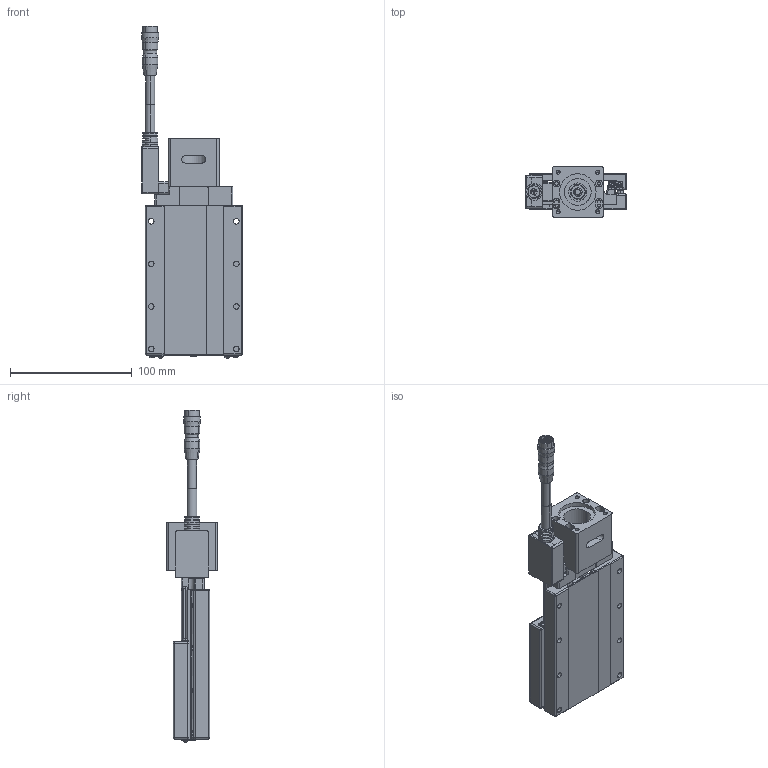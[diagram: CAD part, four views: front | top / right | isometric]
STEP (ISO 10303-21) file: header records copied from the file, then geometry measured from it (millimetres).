
FILE_DESCRIPTION (( 'STEP AP203' ), '1' );
FILE_NAME ('CXS8050(伺服M無馬達).STEP', '2023-12-25T09:30:01', ( '' ), ( '' ), 'SwSTEP 2.0', 'SolidWorks 2019', '' );
FILE_SCHEMA (( 'CONFIG_CONTROL_DESIGN' ));
Length unit declared in the file: millimetre
Products named in the file (6): CXS8050(伺服M無馬達); CXS-H-01; Group1^CXS8050(伺服M無馬達)_defeature_GMT; Group2^CXS8050(伺服M無馬達)_defeature_GMT; CXS-M_GMT; HR10A-10J-12P
Assembly tree (5 placements, depth 2):
  CXS8050(伺服M無馬達)
    Group1^CXS8050(伺服M無馬達)_defeature_GMT
    Group2^CXS8050(伺服M無馬達)_defeature_GMT
    HR10A-10J-12P
    CXS-H-01
    CXS-M_GMT
Bounding box: 83 x 42 x 273.12 mm (x, y, z)
Volume: 105329.2 mm3; surface area: 96452 mm2
Topology: 11 solids, 14 shells, 1980 faces, 5011 edges, 3127 vertices
Faces by surface type: plane 997, cylinder 538, cone 223, sphere 140, torus 43, bspline 39
Entity records: 62592 total; most frequent: CARTESIAN_POINT 13586, DIRECTION 10506, ORIENTED_EDGE 9902, EDGE_CURVE 4951, AXIS2_PLACEMENT_3D 3932, VERTEX_POINT 3127, VECTOR 2642, LINE 2642
